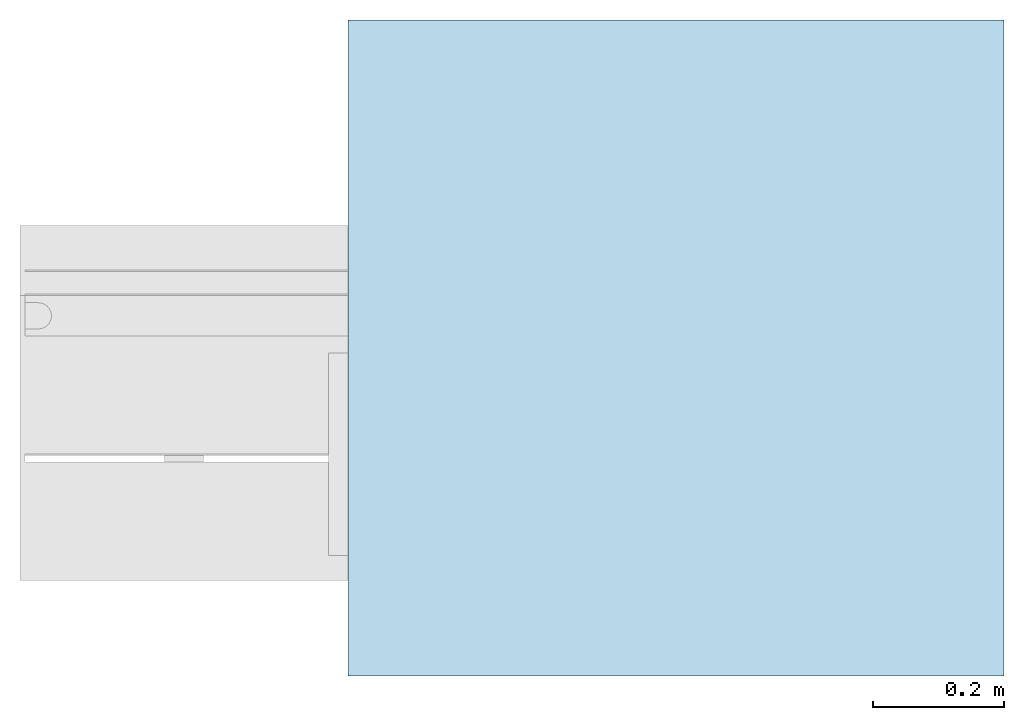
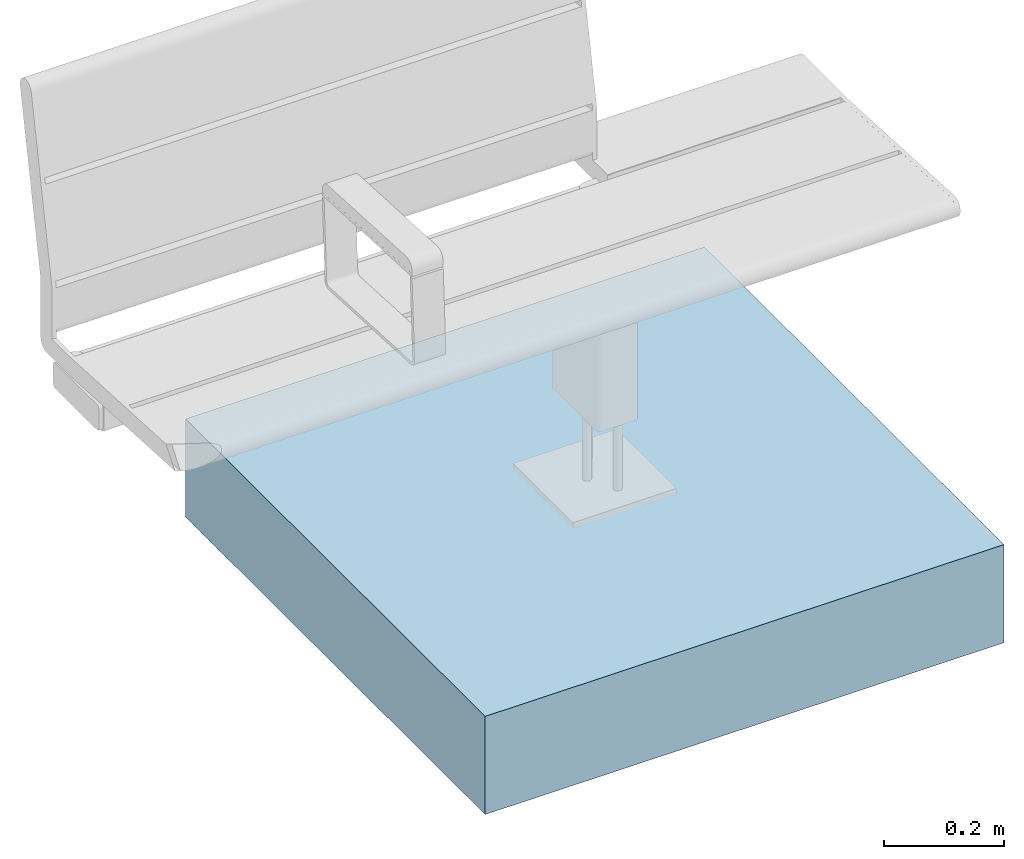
# One storey, incomplete: 1 slab.
"""IFC4 building model written with IfcOpenShell, lengths in metres."""

from ifc_helpers import new_model, entity, si_unit, converted_unit, direction, frame, frame_2d, origin, place, context, subcontext, project, spatial, rectangle, extrude, material, type_object, element, save


model = new_model("IFC4")

# Units and contexts
model_context = context("Model", 3, precision=1e-05, world=origin(), true_north=direction((6.123031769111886e-17, 1.0)))
body_context = subcontext(model_context, "Body", "Model", "MODEL_VIEW")
ifc_project = project(units=[si_unit("LENGTHUNIT", "METRE"), converted_unit("PLANEANGLEUNIT", "DEGREE", entity("IfcPlaneAngleMeasure", 0.017453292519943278), si_unit("PLANEANGLEUNIT", "RADIAN"), dimensions=[0, 0, 0, 0, 0, 0, 0]), si_unit("AREAUNIT", "SQUARE_METRE")], contexts=[model_context])

# Site, building, storey
site_placement = place(None, origin())
site = spatial("IfcSite", under=ifc_project, at=site_placement, Name="Default", CompositionType="ELEMENT")
building_placement = place(site_placement, origin())
building = spatial("IfcBuilding", under=site, at=building_placement, CompositionType="ELEMENT")
storey_placement = place(building_placement, origin())
storey = spatial("IfcBuildingStorey", under=building, at=storey_placement, Name="Ebene 0", CompositionType="ELEMENT", Elevation=0.0)

# Slab
ifc_material = material(Name="DB_Fertigbeton", Category="DB_Beton")
slab_type = type_object("IfcSlabType", Name="DB_Calidum_light_Fundament:DB_Calidum_light_Fundament", PredefinedType="BASESLAB", material=ifc_material)
slab_placement = place(storey_placement, origin())
element("IfcSlab", 1, at=slab_placement, inside=storey, type_object=slab_type, Name="DB_Calidum_light_Fundament:DB_Calidum_light_Fundament", ObjectType="DB_Calidum_light_Fundament:DB_Calidum_light_Fundament", PredefinedType="BASESLAB", context=body_context, shape_type="SweptSolid", body=[
    extrude(rectangle(XDim=0.9999999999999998, YDim=0.9999999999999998, at=frame_2d((0.0, -1.1102230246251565e-16), x_axis=(1.0, 0.0))), frame((1.0, 0.0, -0.36199999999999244), z_axis=(0.0, 0.0, 1.0), x_axis=(0.0, 1.0, 0.0)), (0.0, 0.0, 1.0), 0.2),
])

save(model, "model.ifc")
